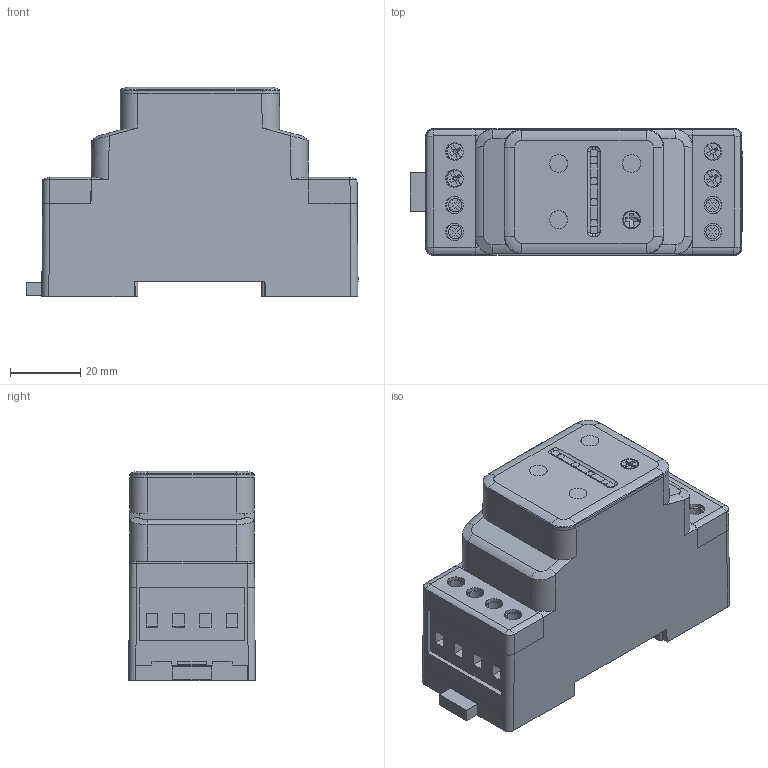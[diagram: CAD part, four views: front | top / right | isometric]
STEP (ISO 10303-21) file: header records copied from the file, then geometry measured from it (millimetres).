
FILE_DESCRIPTION (( 'STEP AP203' ), '1' );
FILE_NAME ('DIN2 PK28 SSRC-04.STEP', '2022-12-12T08:13:47', ( '' ), ( '' ), 'SwSTEP 2.0', 'SolidWorks 2021', '' );
FILE_SCHEMA (( 'CONFIG_CONTROL_DESIGN' ));
Length unit declared in the file: millimetre
Products named in the file (1): DIN2 PK28  SSRC-04
Bounding box: 94.49 x 36 x 59.7 mm (x, y, z)
Volume: 148200.4 mm3; surface area: 23834 mm2
Topology: 1 solids, 4 shells, 619 faces, 1629 edges, 1051 vertices
Faces by surface type: plane 407, cylinder 176, torus 15, cone 12, bspline 9
Entity records: 20145 total; most frequent: CARTESIAN_POINT 4823, ORIENTED_EDGE 3250, DIRECTION 3090, EDGE_CURVE 1625, VECTOR 1076, LINE 1076, VERTEX_POINT 1051, AXIS2_PLACEMENT_3D 1007
